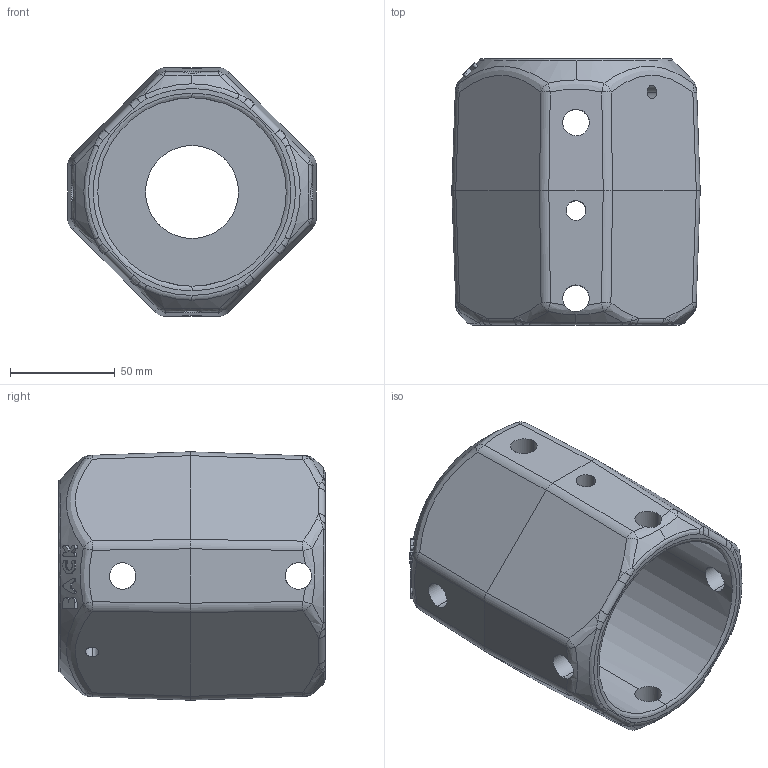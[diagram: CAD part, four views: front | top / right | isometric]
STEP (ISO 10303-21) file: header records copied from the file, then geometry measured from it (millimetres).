
FILE_DESCRIPTION (( 'STEP AP203' ), '1' );
FILE_NAME ('vlpost.STEP', '2009-03-24T18:39:00', ( '' ), ( '' ), 'SwSTEP 2.0', 'SolidWorks 2007', '' );
FILE_SCHEMA (( 'CONFIG_CONTROL_DESIGN' ));
Length unit declared in the file: inch
Products named in the file (1): vlpost
Bounding box: 118.79 x 127.25 x 118.79 mm (x, y, z)
Volume: 493249.6 mm3; surface area: 98222.3 mm2
Topology: 1 solids, 1 shells, 198 faces, 511 edges, 309 vertices
Faces by surface type: cylinder 82, bspline 69, plane 39, cone 8
Entity records: 10352 total; most frequent: CARTESIAN_POINT 6216, ORIENTED_EDGE 1022, DIRECTION 616, EDGE_CURVE 511, VERTEX_POINT 309, AXIS2_PLACEMENT_3D 232, EDGE_LOOP 218, ADVANCED_FACE 198
